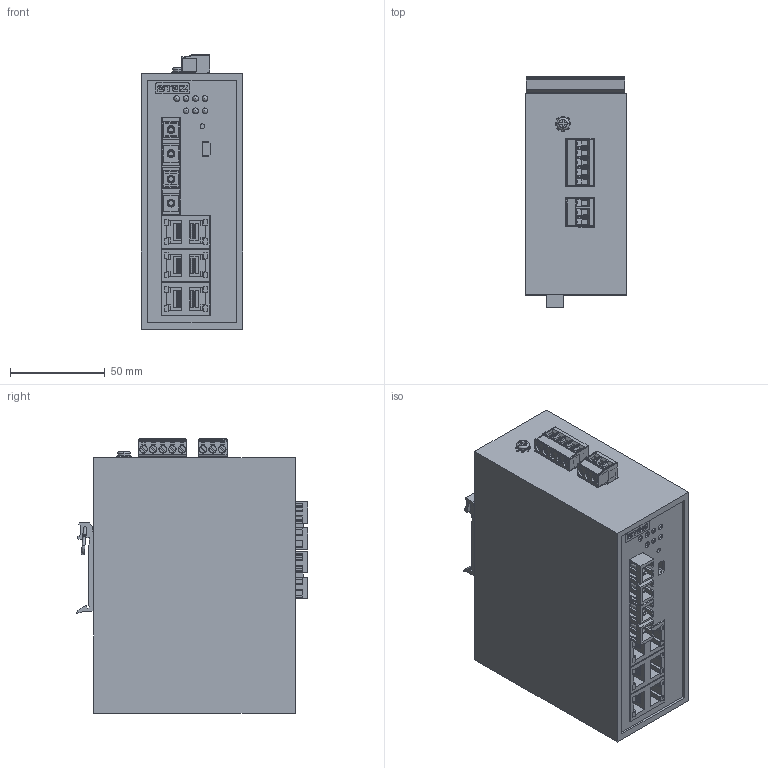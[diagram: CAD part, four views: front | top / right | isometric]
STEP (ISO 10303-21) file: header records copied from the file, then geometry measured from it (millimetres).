
FILE_DESCRIPTION(('TFLEX Exchange Step'),'2;1');
FILE_NAME('70110003_STEZ3106-2SM.stp', '2025-08-27T10:12:28+03:00',('YLedovskikh'),('Unknown organisation'),'TFLEX Exchange 2023.2','T-FLEX CAD','Unknown authorisation');
FILE_SCHEMA( ('AUTOMOTIVE_DESIGN { 1 0 10303 214 1 1 1 1 }') );
Length unit declared in the file: millimetre
Products named in the file (1): Тело_25:1
Bounding box: 53.6 x 122.45 x 145 mm (x, y, z)
Volume: 761804.5 mm3; surface area: 100274.3 mm2
Topology: 1 solids, 17 shells, 1998 faces, 5761 edges, 3871 vertices
Faces by surface type: plane 1413, cylinder 367, bspline 160, sphere 19, extrusion 17, torus 14, cone 8
Full cylindrical faces by diameter (mm): 0.6 x18, 1.02 x12, 1.27 x4, 1.3 x11, 1.5 x10, 2.51 x4, 3 x27, 3.25 x6, 3.343 x4, 3.821 x8, 4 x10, 4.2 x4, 4.4 x1, 6.8 x1
Entity records: 68289 total; most frequent: CARTESIAN_POINT 15052, ORIENTED_EDGE 11508, DIRECTION 9939, EDGE_CURVE 5754, VECTOR 4221, LINE 4204, VERTEX_POINT 3871, AXIS2_PLACEMENT_3D 2859
